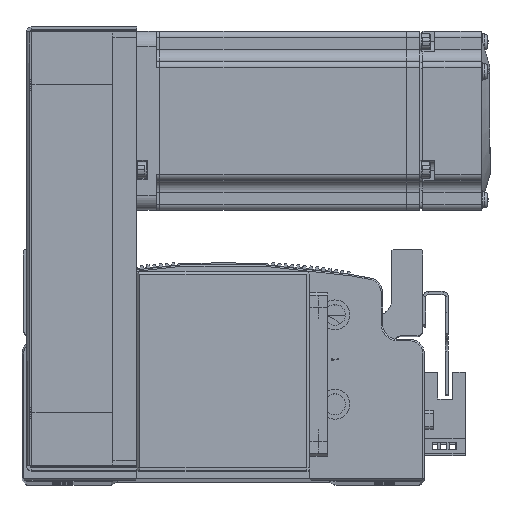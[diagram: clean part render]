
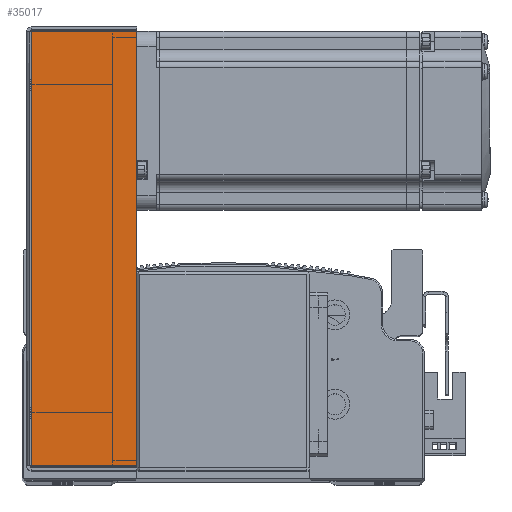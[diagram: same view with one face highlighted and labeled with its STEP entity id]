
A CAD part, top view. The second image highlights one B-rep face of the part: STEP entity #35017.
In plain terms, the highlighted planar face has unit normal (0, 0, 1).
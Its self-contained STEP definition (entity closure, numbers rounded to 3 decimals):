
#2388 = DIRECTION ( 'NONE',  ( 0., 0., -1. ) ) ;
#2432 = DIRECTION ( 'NONE',  ( -1., 0., 0. ) ) ;
#3974 = PLANE ( 'NONE',  #28628 ) ;
#4017 = CARTESIAN_POINT ( 'NONE',  ( 0., 0., 34.5 ) ) ;
#5220 = FACE_OUTER_BOUND ( 'NONE', #25314, .T. ) ;
#19453 = DIRECTION ( 'NONE',  ( -1., 0., 0. ) ) ;
#20579 = DIRECTION ( 'NONE',  ( 0., 1., 0. ) ) ;
#20583 = DIRECTION ( 'NONE',  ( 0., 1., 0. ) ) ;
#20586 = CARTESIAN_POINT ( 'NONE',  ( -72.793, 0., 34.5 ) ) ;
#20587 = CARTESIAN_POINT ( 'NONE',  ( 72.793, 0., 34.5 ) ) ;
#20728 = DIRECTION ( 'NONE',  ( -1., 0., 0. ) ) ;
#20736 = CARTESIAN_POINT ( 'NONE',  ( 0., 36., 34.5 ) ) ;
#20841 = CARTESIAN_POINT ( 'NONE',  ( -74.5, 0.737, 34.5 ) ) ;
#25314 = EDGE_LOOP ( 'NONE', ( #27221, #27254, #27242, #27260 ) ) ;
#27221 = ORIENTED_EDGE ( 'NONE', *, *, #73355, .F. ) ;
#27242 = ORIENTED_EDGE ( 'NONE', *, *, #73277, .T. ) ;
#27254 = ORIENTED_EDGE ( 'NONE', *, *, #73172, .T. ) ;
#27260 = ORIENTED_EDGE ( 'NONE', *, *, #73168, .F. ) ;
#27535 = VERTEX_POINT ( 'NONE', #56835 ) ;
#27595 = VERTEX_POINT ( 'NONE', #57052 ) ;
#27622 = VERTEX_POINT ( 'NONE', #56947 ) ;
#27632 = VERTEX_POINT ( 'NONE', #57174 ) ;
#28628 = AXIS2_PLACEMENT_3D ( 'NONE', #4017, #2388, #2432 ) ;
#35017 = ADVANCED_FACE ( 'NONE', ( #5220 ), #3974, .F. ) ;
#44771 = LINE ( 'NONE', #20586, #44806 ) ;
#44773 = LINE ( 'NONE', #20587, #44828 ) ;
#44806 = VECTOR ( 'NONE', #20579, 1000. ) ;
#44828 = VECTOR ( 'NONE', #20583, 1000. ) ;
#44870 = LINE ( 'NONE', #20841, #44964 ) ;
#44892 = LINE ( 'NONE', #20736, #44950 ) ;
#44950 = VECTOR ( 'NONE', #20728, 1000. ) ;
#44964 = VECTOR ( 'NONE', #19453, 1000. ) ;
#56835 = CARTESIAN_POINT ( 'NONE',  ( -72.793, 0.737, 34.5 ) ) ;
#56947 = CARTESIAN_POINT ( 'NONE',  ( 72.793, 36., 34.5 ) ) ;
#57052 = CARTESIAN_POINT ( 'NONE',  ( -72.793, 36., 34.5 ) ) ;
#57174 = CARTESIAN_POINT ( 'NONE',  ( 72.793, 0.737, 34.5 ) ) ;
#73168 = EDGE_CURVE ( 'NONE', #27535, #27595, #44771, .T. ) ;
#73172 = EDGE_CURVE ( 'NONE', #27632, #27622, #44773, .T. ) ;
#73277 = EDGE_CURVE ( 'NONE', #27622, #27595, #44892, .T. ) ;
#73355 = EDGE_CURVE ( 'NONE', #27632, #27535, #44870, .T. ) ;
